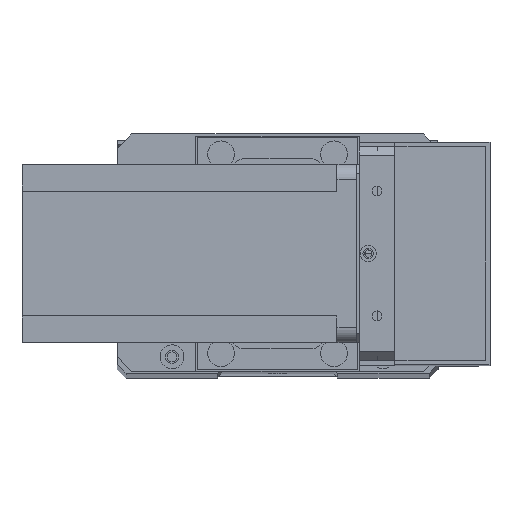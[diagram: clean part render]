
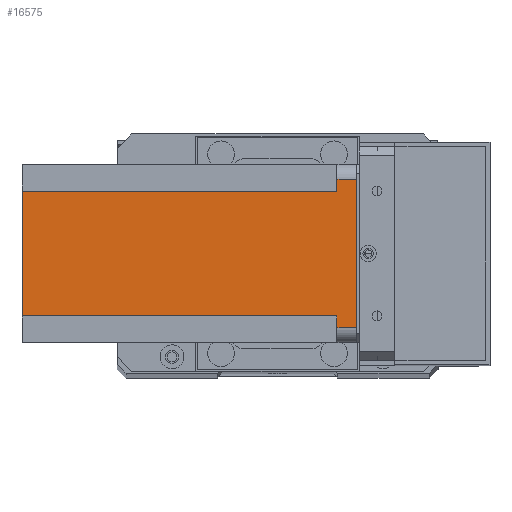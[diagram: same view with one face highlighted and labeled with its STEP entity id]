
A CAD part, top view. The second image highlights one B-rep face of the part: STEP entity #16575.
In plain terms, the highlighted planar face has unit normal (0, 0, 1) as drawn and (1, 0, 0) by its records, which use the part's own axes.
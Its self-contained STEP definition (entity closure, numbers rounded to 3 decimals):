
#196 = CARTESIAN_POINT ( 'NONE',  ( 60., 55., -6.5 ) ) ;
#365 = CARTESIAN_POINT ( 'NONE',  ( 60., 55., -112.5 ) ) ;
#618 = EDGE_CURVE ( 'NONE', #29012, #3334, #13191, .T. ) ;
#1043 = EDGE_LOOP ( 'NONE', ( #23447, #14029, #3165, #28465, #15825, #2062, #8246, #21285 ) ) ;
#2062 = ORIENTED_EDGE ( 'NONE', *, *, #15327, .F. ) ;
#2715 = DIRECTION ( 'NONE',  ( 0., 0., 1. ) ) ;
#2750 = PLANE ( 'NONE',  #22291 ) ;
#3165 = ORIENTED_EDGE ( 'NONE', *, *, #618, .F. ) ;
#3334 = VERTEX_POINT ( 'NONE', #26029 ) ;
#3455 = EDGE_CURVE ( 'NONE', #12516, #26245, #3814, .T. ) ;
#3814 = LINE ( 'NONE', #26430, #9241 ) ;
#4408 = EDGE_CURVE ( 'NONE', #19510, #26245, #15334, .T. ) ;
#5363 = DIRECTION ( 'NONE',  ( 0., -1., 0. ) ) ;
#6872 = LINE ( 'NONE', #25889, #22461 ) ;
#7417 = DIRECTION ( 'NONE',  ( 0., 1., 0. ) ) ;
#8246 = ORIENTED_EDGE ( 'NONE', *, *, #4408, .T. ) ;
#8946 = DIRECTION ( 'NONE',  ( 0., -1., 0. ) ) ;
#9167 = CARTESIAN_POINT ( 'NONE',  ( 60., 0., 0. ) ) ;
#9241 = VECTOR ( 'NONE', #10290, 1000. ) ;
#9722 = DIRECTION ( 'NONE',  ( 0., 0., 1. ) ) ;
#10290 = DIRECTION ( 'NONE',  ( 0., 0., -1. ) ) ;
#11165 = FACE_OUTER_BOUND ( 'NONE', #1043, .T. ) ;
#11192 = VERTEX_POINT ( 'NONE', #13992 ) ;
#11621 = CARTESIAN_POINT ( 'NONE',  ( 60., 5., 0. ) ) ;
#12453 = VECTOR ( 'NONE', #21015, 1000. ) ;
#12516 = VERTEX_POINT ( 'NONE', #18613 ) ;
#13039 = DIRECTION ( 'NONE',  ( 0., 1., 0. ) ) ;
#13178 = LINE ( 'NONE', #25656, #12453 ) ;
#13191 = LINE ( 'NONE', #9167, #25474 ) ;
#13992 = CARTESIAN_POINT ( 'NONE',  ( 60., 5., -6.5 ) ) ;
#14029 = ORIENTED_EDGE ( 'NONE', *, *, #22990, .T. ) ;
#15327 = EDGE_CURVE ( 'NONE', #19510, #23151, #6872, .T. ) ;
#15334 = LINE ( 'NONE', #22263, #20759 ) ;
#15546 = VECTOR ( 'NONE', #8946, 1000. ) ;
#15825 = ORIENTED_EDGE ( 'NONE', *, *, #22159, .F. ) ;
#15828 = CARTESIAN_POINT ( 'NONE',  ( 60., 0., -6.5 ) ) ;
#16549 = CARTESIAN_POINT ( 'NONE',  ( 60., 51., -112.5 ) ) ;
#16575 = ADVANCED_FACE ( 'NONE', ( #11165 ), #2750, .T. ) ;
#17143 = EDGE_CURVE ( 'NONE', #29860, #12516, #26676, .T. ) ;
#18613 = CARTESIAN_POINT ( 'NONE',  ( 60., 51., -6.5 ) ) ;
#18955 = CARTESIAN_POINT ( 'NONE',  ( 60., 0., -112.5 ) ) ;
#19118 = CARTESIAN_POINT ( 'NONE',  ( 60., 60., -6.5 ) ) ;
#19510 = VERTEX_POINT ( 'NONE', #25173 ) ;
#19674 = EDGE_CURVE ( 'NONE', #29012, #11192, #13178, .T. ) ;
#20759 = VECTOR ( 'NONE', #13039, 1000. ) ;
#21015 = DIRECTION ( 'NONE',  ( 0., 0., -1. ) ) ;
#21282 = DIRECTION ( 'NONE',  ( 1., 0., 0. ) ) ;
#21285 = ORIENTED_EDGE ( 'NONE', *, *, #3455, .F. ) ;
#21701 = LINE ( 'NONE', #15828, #15546 ) ;
#22159 = EDGE_CURVE ( 'NONE', #23151, #11192, #21701, .T. ) ;
#22263 = CARTESIAN_POINT ( 'NONE',  ( 60., 0., -112.5 ) ) ;
#22291 = AXIS2_PLACEMENT_3D ( 'NONE', #18955, #21282, #7417 ) ;
#22461 = VECTOR ( 'NONE', #9722, 1000. ) ;
#22990 = EDGE_CURVE ( 'NONE', #29860, #3334, #25254, .T. ) ;
#23151 = VERTEX_POINT ( 'NONE', #24189 ) ;
#23447 = ORIENTED_EDGE ( 'NONE', *, *, #17143, .F. ) ;
#24189 = CARTESIAN_POINT ( 'NONE',  ( 60., 9., -6.5 ) ) ;
#24561 = VECTOR ( 'NONE', #2715, 1000. ) ;
#25173 = CARTESIAN_POINT ( 'NONE',  ( 60., 9., -112.5 ) ) ;
#25254 = LINE ( 'NONE', #365, #24561 ) ;
#25333 = DIRECTION ( 'NONE',  ( 0., 1., 0. ) ) ;
#25474 = VECTOR ( 'NONE', #25333, 1000. ) ;
#25656 = CARTESIAN_POINT ( 'NONE',  ( 60., 5., -112.5 ) ) ;
#25889 = CARTESIAN_POINT ( 'NONE',  ( 60., 9., -112.5 ) ) ;
#25960 = VECTOR ( 'NONE', #5363, 1000. ) ;
#26029 = CARTESIAN_POINT ( 'NONE',  ( 60., 55., 0. ) ) ;
#26245 = VERTEX_POINT ( 'NONE', #16549 ) ;
#26430 = CARTESIAN_POINT ( 'NONE',  ( 60., 51., -112.5 ) ) ;
#26676 = LINE ( 'NONE', #19118, #25960 ) ;
#28465 = ORIENTED_EDGE ( 'NONE', *, *, #19674, .T. ) ;
#29012 = VERTEX_POINT ( 'NONE', #11621 ) ;
#29860 = VERTEX_POINT ( 'NONE', #196 ) ;
